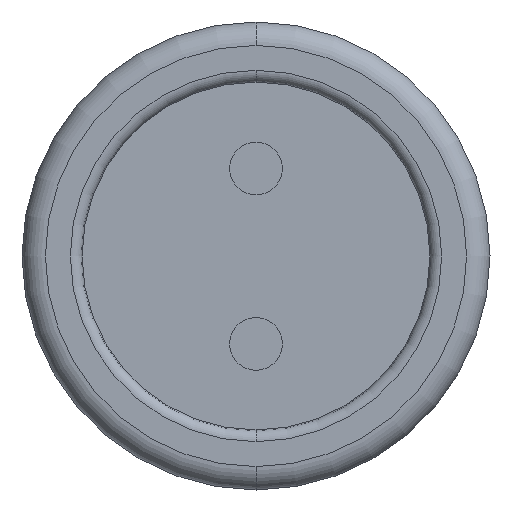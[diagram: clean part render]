
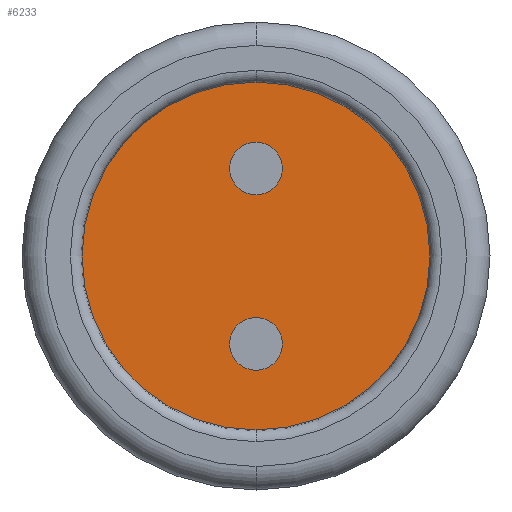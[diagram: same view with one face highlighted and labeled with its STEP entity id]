
A CAD part, left-side view. The second image highlights one B-rep face of the part: STEP entity #6233.
In plain terms, the highlighted planar face has unit normal (-1, 0, 0).
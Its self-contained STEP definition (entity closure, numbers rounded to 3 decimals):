
#40=CARTESIAN_POINT('',(-4.8,0.,0.002));
#41=DIRECTION('',(-1.,0.,0.));
#42=DIRECTION('',(0.,0.,-1.));
#43=AXIS2_PLACEMENT_3D('',#40,#41,#42);
#45=CARTESIAN_POINT('',(-4.8,0.,0.002));
#46=DIRECTION('',(1.,0.,0.));
#47=DIRECTION('',(0.,0.,-1.));
#48=AXIS2_PLACEMENT_3D('',#45,#46,#47);
#50=CARTESIAN_POINT('',(-4.8,0.,-0.75));
#51=DIRECTION('',(-1.,0.,0.));
#52=DIRECTION('',(0.,0.,-1.));
#53=AXIS2_PLACEMENT_3D('',#50,#51,#52);
#55=CARTESIAN_POINT('',(-4.8,0.,-0.75));
#56=DIRECTION('',(-1.,0.,0.));
#57=DIRECTION('',(0.,0.,1.));
#58=AXIS2_PLACEMENT_3D('',#55,#56,#57);
#60=CARTESIAN_POINT('',(-4.8,0.,0.75));
#61=DIRECTION('',(-1.,0.,0.));
#62=DIRECTION('',(0.,0.,-1.));
#63=AXIS2_PLACEMENT_3D('',#60,#61,#62);
#65=CARTESIAN_POINT('',(-4.8,0.,0.75));
#66=DIRECTION('',(-1.,0.,0.));
#67=DIRECTION('',(0.,0.,1.));
#68=AXIS2_PLACEMENT_3D('',#65,#66,#67);
#4686=CARTESIAN_POINT('',(-4.8,0.,-1.498));
#4687=VERTEX_POINT('',#4686);
#4688=CARTESIAN_POINT('',(-4.8,0.,1.502));
#4689=VERTEX_POINT('',#4688);
#4694=CARTESIAN_POINT('',(-4.8,0.,-0.975));
#4695=CARTESIAN_POINT('',(-4.8,0.,-0.525));
#4696=VERTEX_POINT('',#4694);
#4697=VERTEX_POINT('',#4695);
#4698=CARTESIAN_POINT('',(-4.8,0.,0.525));
#4699=CARTESIAN_POINT('',(-4.8,0.,0.975));
#4700=VERTEX_POINT('',#4698);
#4701=VERTEX_POINT('',#4699);
#6212=CARTESIAN_POINT('',(-4.8,0.,0.002));
#6213=DIRECTION('',(1.,0.,0.));
#6214=DIRECTION('',(0.,0.,1.));
#6215=AXIS2_PLACEMENT_3D('',#6212,#6213,#6214);
#6216=PLANE('',#6215);
#6217=ORIENTED_EDGE('',*,*,#6191,.F.);
#6218=ORIENTED_EDGE('',*,*,#6207,.T.);
#6219=EDGE_LOOP('',(#6217,#6218));
#6220=FACE_OUTER_BOUND('',#6219,.F.);
#6222=ORIENTED_EDGE('',*,*,#6221,.T.);
#6224=ORIENTED_EDGE('',*,*,#6223,.T.);
#6225=EDGE_LOOP('',(#6222,#6224));
#6226=FACE_BOUND('',#6225,.F.);
#6228=ORIENTED_EDGE('',*,*,#6227,.T.);
#6230=ORIENTED_EDGE('',*,*,#6229,.T.);
#6231=EDGE_LOOP('',(#6228,#6230));
#6232=FACE_BOUND('',#6231,.F.);
#6233=ADVANCED_FACE('',(#6220,#6226,#6232),#6216,.F.);
#44=CIRCLE('',#43,1.5);
#49=CIRCLE('',#48,1.5);
#54=CIRCLE('',#53,0.225);
#59=CIRCLE('',#58,0.225);
#64=CIRCLE('',#63,0.225);
#69=CIRCLE('',#68,0.225);
#6191=EDGE_CURVE('',#4687,#4689,#44,.T.);
#6207=EDGE_CURVE('',#4687,#4689,#49,.T.);
#6221=EDGE_CURVE('',#4696,#4697,#54,.T.);
#6223=EDGE_CURVE('',#4697,#4696,#59,.T.);
#6227=EDGE_CURVE('',#4700,#4701,#64,.T.);
#6229=EDGE_CURVE('',#4701,#4700,#69,.T.);
